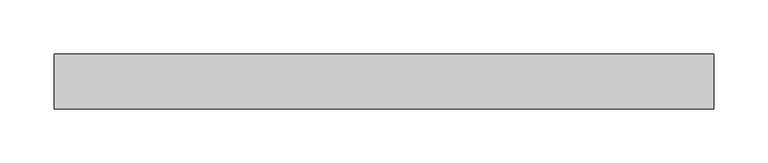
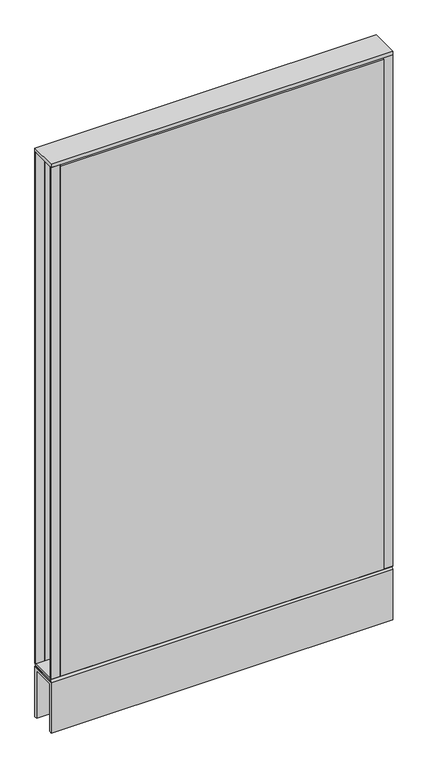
"""IFC4 building model written with IfcOpenShell, lengths in millimetres: furniture geometry, Steelcase - Kick Solutions - Panel - Monolithic - Tackable Acoustical : 42H x 24W."""

from ifc_helpers import new_model, si_unit, frame, origin, place, context, project, spatial, polyline, outline, extrude, source, transform, mapped, element, save


def furniture_04c3a032(model_context):
    return source(origin(), model_context, "Body", "SweptSolid", [
        extrude(outline(polyline([(0.0, 101.7169049), (-3.1750015, 101.7169049), (-3.1750015, 1066.9169018), (0.0, 1063.8357466), (0.0, 101.7169049)])), frame((15.8749996, 0.0, 0.0), z_axis=(1.0, 0.0, 0.0), x_axis=(0.0, 1.0, 0.0)), (0.0, 0.0, 1.0), 577.8500008),
        extrude(outline(polyline([(-50.8000015, 101.7169049), (-50.8000015, 1063.8357466), (-47.625, 1066.9169018), (-47.625, 101.7169049), (-50.8000015, 101.7169049)])), frame((15.8749996, 0.0, 0.0), z_axis=(1.0, 0.0, 0.0), x_axis=(0.0, 1.0, 0.0)), (0.0, 0.0, 1.0), 577.8500008),
        extrude(outline(polyline([(609.6, -3.1750015), (593.7250004, -3.1750015), (593.7250004, 0.0), (609.6, 0.0), (609.6, -3.1750015)])), frame((0.0, 0.0, 101.7169049), z_axis=(0.0, 0.0, 1.0), x_axis=(1.0, 0.0, 0.0)), (0.0, 0.0, 1.0), 965.199997),
        extrude(outline(polyline([(15.8749996, -50.8000015), (0.0, -50.8000015), (0.0, -47.625), (15.8749996, -47.625), (15.8749996, -50.8000015)])), frame((0.0, 0.0, 101.7169049), z_axis=(0.0, 0.0, 1.0), x_axis=(1.0, 0.0, 0.0)), (0.0, 0.0, 1.0), 965.199997),
        extrude(outline(polyline([(-50.7995075, 101.7169049), (-0.000494, 101.7169049), (-3.0583512, 98.5421458), (-47.7416503, 98.5421458), (-50.7995075, 101.7169049)])), frame((0.0, 0.0, 0.0), z_axis=(1.0, 0.0, 0.0), x_axis=(0.0, 1.0, 0.0)), (0.0, 0.0, 1.0), 609.6),
        extrude(outline(polyline([(609.6, 0.0), (609.6, -50.8000015), (0.0, -50.8000015), (0.0, 0.0), (609.6, 0.0)])), frame((0.0, 0.0, 1066.9169018), z_axis=(0.0, 0.0, 1.0), x_axis=(1.0, 0.0, 0.0)), (0.0, 0.0, 1.0), 6.35),
        extrude(outline(polyline([(15.8749996, -3.1750015), (0.0, -3.1750015), (0.0, 0.0), (15.8749996, 0.0), (15.8749996, -3.1750015)])), frame((0.0, 0.0, 101.7169049), z_axis=(0.0, 0.0, 1.0), x_axis=(1.0, 0.0, 0.0)), (0.0, 0.0, 1.0), 965.199997),
        extrude(outline(polyline([(609.6, -50.8000015), (593.7250004, -50.8000015), (593.7250004, -47.625), (609.6, -47.625), (609.6, -50.8000015)])), frame((0.0, 0.0, 101.7169049), z_axis=(0.0, 0.0, 1.0), x_axis=(1.0, 0.0, 0.0)), (0.0, 0.0, 1.0), 965.199997),
        extrude(outline(polyline([(-50.8000015, 95.3668927), (-47.6247484, 98.5421458), (-3.1752531, 98.5421458), (0.0, 95.3668927), (-50.8000015, 95.3668927)])), frame((0.0, 0.0, 0.0), z_axis=(1.0, 0.0, 0.0), x_axis=(0.0, 1.0, 0.0)), (0.0, 0.0, 1.0), 609.6),
        extrude(outline(polyline([(0.0, 0.0), (-5.08, 0.0), (-5.08, 90.2869018), (-45.7200015, 90.2869018), (-45.7200015, 0.0), (-50.8000015, 0.0), (-50.8000015, 95.3669018), (0.0, 95.3669018), (0.0, 0.0)])), frame((0.0, 0.0, 0.0), z_axis=(1.0, 0.0, 0.0), x_axis=(0.0, 1.0, 0.0)), (0.0, 0.0, 1.0), 609.6),
    ])


if __name__ == "__main__":
    model = new_model("IFC4")
    model_context = context("Model", 3, world=origin())
    ifc_project = project(units=[si_unit("LENGTHUNIT", "METRE", prefix="MILLI")], contexts=[model_context])
    site = spatial("IfcSite", under=ifc_project)
    building = spatial("IfcBuilding", under=site)
    placement = place(None, origin())
    furniture_shape = furniture_04c3a032(model_context)
    element("IfcFurniture", 1, ObjectType="Steelcase - Kick Solutions - Panel - Monolithic - Tackable Acoustical : 42H x 24W", at=placement, inside=building, context=model_context, shape_type="MappedRepresentation", body=[
        mapped(furniture_shape, transform((0.0, 0.0, 0.0), x_axis=(1.0, 0.0, 0.0), y_axis=(0.0, 1.0, 0.0), z_axis=(0.0, 0.0, 1.0))),
    ])
    save(model, "model.ifc")
